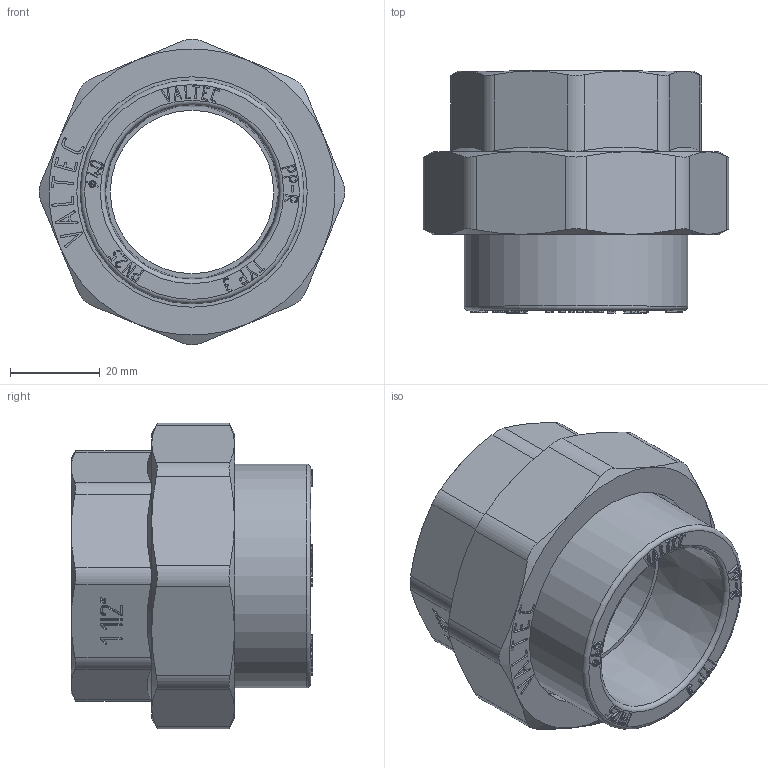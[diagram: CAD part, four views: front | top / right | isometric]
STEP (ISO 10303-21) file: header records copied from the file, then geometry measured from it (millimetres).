
FILE_DESCRIPTION(('STEP AP203'), '1');
FILE_NAME('VTp.762.0.04008', '2026-07-20T07:27:45', ('VerevichevVA'), ('Vesta'), 'C3D Converter', 'C3D Toolkit', '');
FILE_SCHEMA(('CONFIG_CONTROL_DESIGN'));
Length unit declared in the file: millimetre
Products named in the file (1): ВР.302634.115.000 СБ
Bounding box: 68.28 x 54 x 68.28 mm (x, y, z)
Volume: 66295.1 mm3; surface area: 22092.3 mm2
Topology: 1 solids, 1 shells, 836 faces, 2314 edges, 1533 vertices
Faces by surface type: extrusion 459, plane 325, cone 29, cylinder 21, torus 2
Full cylindrical faces by diameter (mm): 36.5 x1, 39 x1, 44.846 x1, 50 x1, 51.5 x1
Entity records: 28954 total; most frequent: CARTESIAN_POINT 9765, ORIENTED_EDGE 4560, DIRECTION 2509, EDGE_CURVE 2280, VECTOR 1711, VERTEX_POINT 1522, B_SPLINE_CURVE_WITH_KNOTS 1455, LINE 1252
